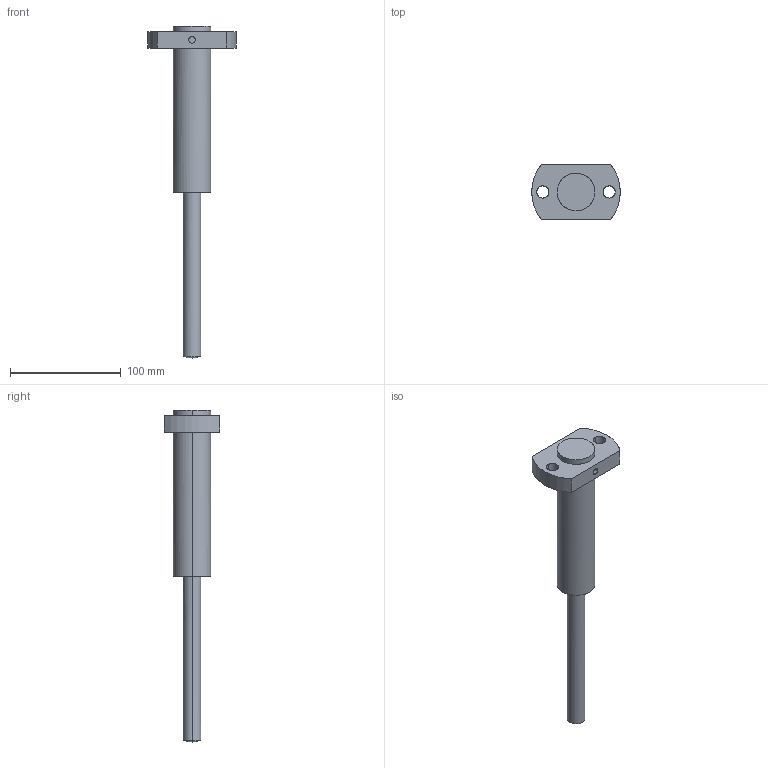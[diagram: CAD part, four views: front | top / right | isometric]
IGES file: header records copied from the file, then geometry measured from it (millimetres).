
Global section: file name: E:\UnigraphicsGraphicData\MISUMI_PRESS-PARTS\IGES\3d_papz16-150-150-130-175_01703_r00.igs; native system: NX V5.0; preprocessor: UGS NX IGES V5.0; author: MISUMI; date: 20110105.162227; units: millimetre
Bounding box: 80 x 50 x 300 mm (x, y, z)
Surface area: 37195.7 mm2 (no closed solid volume)
Topology: 0 solids, 0 shells, 23 faces, 220 edges, 218 vertices
Faces by surface type: bspline 23
